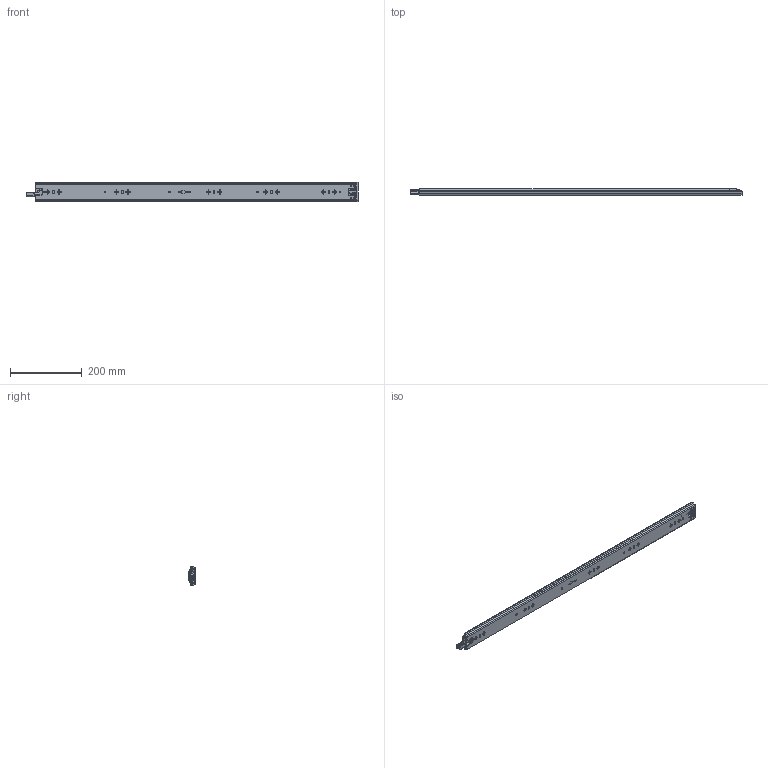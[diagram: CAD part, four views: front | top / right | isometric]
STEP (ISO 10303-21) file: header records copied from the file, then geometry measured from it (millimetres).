
FILE_DESCRIPTION((''),'2;1');
FILE_NAME('1053-3S-36ZUZHUANGTU_ASM','2023-04-12T',('jishu015'),(''),'PRO/ENGINEER BY PARAMETRIC TECHNOLOGY CORPORATION, 2010280','PRO/ENGINEER BY PARAMETRIC TECHNOLOGY CORPORATION, 2010280','');
FILE_SCHEMA(('CONFIG_CONTROL_DESIGN'));
Products named in the file (20): 1053-02-18WAIKE____________; 1053WEIJIAO____________; 1053-3S-24WAIKE_____________ASM; 1053ZHUTIAO-175____________; 53-5-6GANZHU____________; 1053ZHUTIAO-175MM_____________ASM; 1053-02-18ZHONGGUI____________; ZHONGGUIPEIJIAN__________; ZHONGGUISUOKOU__________; 1053-02-18ZHONGGUI_____________ASM; 1053XIAOZHUJIA-14GE____________; 1053XIAOZHUJIA-14GE_____________ASM; 1053-02-18NEIGUI____________; DAOPIAN________; PIAN________; 1053-3SBANJI123_______; JIAO-11_______; 50XINSUOKOU11______; 1053-02-18NEIGUI_____________ASM; 1053-3S-36ZUZHUANGTU_ASM
Assembly tree (99 placements, depth 3):
  1053-3S-36ZUZHUANGTU_ASM
    1053-3S-24WAIKE_____________ASM
      1053-02-18WAIKE____________
      1053WEIJIAO____________
    1053ZHUTIAO-175MM_____________ASM  x2
      1053ZHUTIAO-175____________
      53-5-6GANZHU____________
    1053-02-18ZHONGGUI_____________ASM
      1053-02-18ZHONGGUI____________
      ZHONGGUIPEIJIAN__________
      ZHONGGUISUOKOU__________
    1053XIAOZHUJIA-14GE_____________ASM
      1053XIAOZHUJIA-14GE____________
      53-5-6GANZHU____________  x64
    1053-02-18NEIGUI_____________ASM
      1053-02-18NEIGUI____________
      DAOPIAN________
      PIAN________
      1053-3SBANJI123_______
      JIAO-11_______
      50XINSUOKOU11______
Bounding box: 925.42 x 18.7 x 53 mm (x, y, z)
Volume: 343611.4 mm3; surface area: 398355.3 mm2
Topology: 111 solids, 111 shells, 2743 faces, 7958 edges, 4962 vertices
Faces by surface type: cylinder 1200, plane 1098, sphere 200, bspline 120, cone 86, extrusion 23, torus 16
Entity records: 88408 total; most frequent: CARTESIAN_POINT 21973, ORIENTED_EDGE 14114, DIRECTION 13650, EDGE_CURVE 7057, AXIS2_PLACEMENT_3D 4722, VERTEX_POINT 4561, VECTOR 4206, LINE 4183
